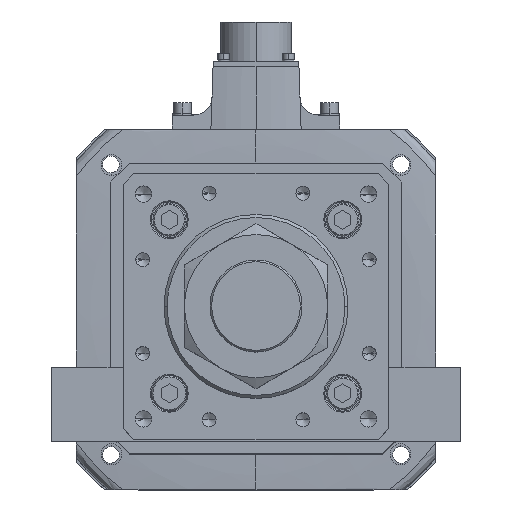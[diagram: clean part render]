
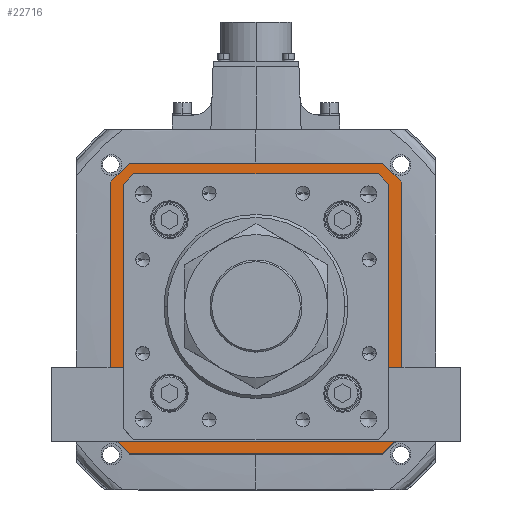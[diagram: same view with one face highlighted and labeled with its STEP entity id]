
A CAD part, top view. The second image highlights one B-rep face of the part: STEP entity #22716.
In plain terms, the highlighted planar face has unit normal (0, 0, 1).
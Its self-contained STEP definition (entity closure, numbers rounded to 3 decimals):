
#202 = ORIENTED_EDGE ( 'NONE', *, *, #43171, .T. ) ;
#1287 = DIRECTION ( 'NONE',  ( 0.707, 0.707, 0. ) ) ;
#1548 = ORIENTED_EDGE ( 'NONE', *, *, #24573, .T. ) ;
#1673 = CARTESIAN_POINT ( 'NONE',  ( -58.793, -63., -142. ) ) ;
#1842 = VECTOR ( 'NONE', #2620, 1000. ) ;
#1913 = EDGE_CURVE ( 'NONE', #6104, #35324, #26500, .T. ) ;
#2513 = CARTESIAN_POINT ( 'NONE',  ( 58.793, -63., -142. ) ) ;
#2620 = DIRECTION ( 'NONE',  ( -0.707, 0.707, 0. ) ) ;
#2770 = ORIENTED_EDGE ( 'NONE', *, *, #30121, .F. ) ;
#2821 = LINE ( 'NONE', #44689, #15617 ) ;
#3034 = LINE ( 'NONE', #45338, #45588 ) ;
#3264 = FACE_BOUND ( 'NONE', #22887, .T. ) ;
#3515 = LINE ( 'NONE', #21176, #36623 ) ;
#3668 = CARTESIAN_POINT ( 'NONE',  ( 0., -63., -142. ) ) ;
#4060 = EDGE_CURVE ( 'NONE', #30266, #53568, #41148, .T. ) ;
#4383 = LINE ( 'NONE', #50966, #20538 ) ;
#4405 = CARTESIAN_POINT ( 'NONE',  ( -58.793, 63., -142. ) ) ;
#4572 = EDGE_CURVE ( 'NONE', #33148, #47173, #3034, .T. ) ;
#4871 = CARTESIAN_POINT ( 'NONE',  ( 71., 62., -142. ) ) ;
#5292 = VERTEX_POINT ( 'NONE', #8486 ) ;
#5397 = CARTESIAN_POINT ( 'NONE',  ( 71., 62., -142. ) ) ;
#6104 = VERTEX_POINT ( 'NONE', #45488 ) ;
#6106 = EDGE_CURVE ( 'NONE', #22545, #49099, #9670, .T. ) ;
#7167 = VECTOR ( 'NONE', #31414, 1000. ) ;
#7328 = ORIENTED_EDGE ( 'NONE', *, *, #4572, .F. ) ;
#7376 = DIRECTION ( 'NONE',  ( 1., 0., 0. ) ) ;
#7693 = CARTESIAN_POINT ( 'NONE',  ( 62., -71., -142. ) ) ;
#7931 = ORIENTED_EDGE ( 'NONE', *, *, #12919, .T. ) ;
#8486 = CARTESIAN_POINT ( 'NONE',  ( 63., 58.793, -142. ) ) ;
#8963 = CARTESIAN_POINT ( 'NONE',  ( 71., 62., -142. ) ) ;
#9179 = EDGE_CURVE ( 'NONE', #35324, #33148, #30275, .T. ) ;
#9670 = LINE ( 'NONE', #37192, #47425 ) ;
#9810 = LINE ( 'NONE', #41874, #54968 ) ;
#9970 = CARTESIAN_POINT ( 'NONE',  ( -62., 71., -142. ) ) ;
#11832 = LINE ( 'NONE', #30900, #43591 ) ;
#11952 = DIRECTION ( 'NONE',  ( -1., 0., 0. ) ) ;
#11995 = DIRECTION ( 'NONE',  ( 1., 0., 0. ) ) ;
#12834 = VERTEX_POINT ( 'NONE', #48550 ) ;
#12919 = EDGE_CURVE ( 'NONE', #46706, #5292, #39150, .T. ) ;
#13585 = VERTEX_POINT ( 'NONE', #14176 ) ;
#14176 = CARTESIAN_POINT ( 'NONE',  ( 63., -58.793, -142. ) ) ;
#15168 = VECTOR ( 'NONE', #7376, 1000. ) ;
#15232 = CARTESIAN_POINT ( 'NONE',  ( -60.896, -60.896, -142. ) ) ;
#15617 = VECTOR ( 'NONE', #45235, 1000. ) ;
#15647 = DIRECTION ( 'NONE',  ( -0.707, 0.707, 0. ) ) ;
#16070 = ORIENTED_EDGE ( 'NONE', *, *, #1913, .F. ) ;
#16150 = PLANE ( 'NONE',  #49194 ) ;
#17379 = ORIENTED_EDGE ( 'NONE', *, *, #9179, .F. ) ;
#17768 = VERTEX_POINT ( 'NONE', #1673 ) ;
#17796 = EDGE_CURVE ( 'NONE', #53973, #46706, #38170, .T. ) ;
#17881 = CARTESIAN_POINT ( 'NONE',  ( 58.793, 63., -142. ) ) ;
#18047 = DIRECTION ( 'NONE',  ( 0.707, -0.707, 0. ) ) ;
#18181 = VECTOR ( 'NONE', #53679, 1000. ) ;
#18554 = LINE ( 'NONE', #35307, #41527 ) ;
#19251 = CARTESIAN_POINT ( 'NONE',  ( 71., -62., -142. ) ) ;
#20512 = DIRECTION ( 'NONE',  ( 1., 0., 0. ) ) ;
#20538 = VECTOR ( 'NONE', #34055, 1000. ) ;
#21176 = CARTESIAN_POINT ( 'NONE',  ( -63., 0., -142. ) ) ;
#22145 = DIRECTION ( 'NONE',  ( 0., -1., 0. ) ) ;
#22453 = DIRECTION ( 'NONE',  ( -0.707, -0.707, 0. ) ) ;
#22545 = VERTEX_POINT ( 'NONE', #40182 ) ;
#22716 = ADVANCED_FACE ( 'NONE', ( #3264, #34322 ), #16150, .T. ) ;
#22887 = EDGE_LOOP ( 'NONE', ( #32468, #43379, #40536, #42191, #1548, #202, #43908, #7931 ) ) ;
#23859 = LINE ( 'NONE', #3668, #40752 ) ;
#23994 = ORIENTED_EDGE ( 'NONE', *, *, #4060, .F. ) ;
#24213 = DIRECTION ( 'NONE',  ( 0.707, -0.707, 0. ) ) ;
#24573 = EDGE_CURVE ( 'NONE', #49674, #12834, #3515, .T. ) ;
#25035 = EDGE_CURVE ( 'NONE', #13585, #54206, #18554, .T. ) ;
#25775 = VECTOR ( 'NONE', #18047, 1000. ) ;
#26500 = LINE ( 'NONE', #5397, #25775 ) ;
#26726 = CARTESIAN_POINT ( 'NONE',  ( -62., 71., -142. ) ) ;
#28535 = ORIENTED_EDGE ( 'NONE', *, *, #6106, .F. ) ;
#29196 = EDGE_CURVE ( 'NONE', #5292, #13585, #54425, .T. ) ;
#30121 = EDGE_CURVE ( 'NONE', #53568, #6104, #9810, .T. ) ;
#30266 = VERTEX_POINT ( 'NONE', #43548 ) ;
#30275 = LINE ( 'NONE', #8963, #36347 ) ;
#30900 = CARTESIAN_POINT ( 'NONE',  ( -60.896, 60.896, -142. ) ) ;
#31414 = DIRECTION ( 'NONE',  ( 0., -1., 0. ) ) ;
#31749 = VECTOR ( 'NONE', #24213, 1000. ) ;
#32468 = ORIENTED_EDGE ( 'NONE', *, *, #29196, .T. ) ;
#32506 = EDGE_CURVE ( 'NONE', #49099, #30266, #2821, .T. ) ;
#32521 = CARTESIAN_POINT ( 'NONE',  ( 60.896, 60.896, -142. ) ) ;
#33148 = VERTEX_POINT ( 'NONE', #19251 ) ;
#34055 = DIRECTION ( 'NONE',  ( -1., 0., 0. ) ) ;
#34322 = FACE_OUTER_BOUND ( 'NONE', #43901, .T. ) ;
#35307 = CARTESIAN_POINT ( 'NONE',  ( 60.896, -60.896, -142. ) ) ;
#35324 = VERTEX_POINT ( 'NONE', #4871 ) ;
#36347 = VECTOR ( 'NONE', #22145, 1000. ) ;
#36623 = VECTOR ( 'NONE', #55688, 1000. ) ;
#37192 = CARTESIAN_POINT ( 'NONE',  ( -62., -71., -142. ) ) ;
#37629 = LINE ( 'NONE', #15232, #1842 ) ;
#38170 = LINE ( 'NONE', #50189, #15168 ) ;
#38731 = EDGE_CURVE ( 'NONE', #54206, #17768, #23859, .T. ) ;
#39150 = LINE ( 'NONE', #32521, #31749 ) ;
#40182 = CARTESIAN_POINT ( 'NONE',  ( -62., -71., -142. ) ) ;
#40536 = ORIENTED_EDGE ( 'NONE', *, *, #38731, .T. ) ;
#40752 = VECTOR ( 'NONE', #11952, 1000. ) ;
#41148 = LINE ( 'NONE', #9970, #18181 ) ;
#41527 = VECTOR ( 'NONE', #22453, 1000. ) ;
#41709 = ORIENTED_EDGE ( 'NONE', *, *, #43427, .F. ) ;
#41874 = CARTESIAN_POINT ( 'NONE',  ( 62., 71., -142. ) ) ;
#42035 = EDGE_CURVE ( 'NONE', #17768, #49674, #37629, .T. ) ;
#42128 = CARTESIAN_POINT ( 'NONE',  ( -63., -58.793, -142. ) ) ;
#42191 = ORIENTED_EDGE ( 'NONE', *, *, #42035, .T. ) ;
#42368 = CARTESIAN_POINT ( 'NONE',  ( -71., -62., -142. ) ) ;
#42392 = DIRECTION ( 'NONE',  ( 0., 0., 1. ) ) ;
#43171 = EDGE_CURVE ( 'NONE', #12834, #53973, #11832, .T. ) ;
#43379 = ORIENTED_EDGE ( 'NONE', *, *, #25035, .T. ) ;
#43427 = EDGE_CURVE ( 'NONE', #47173, #22545, #4383, .T. ) ;
#43548 = CARTESIAN_POINT ( 'NONE',  ( -71., 62., -142. ) ) ;
#43591 = VECTOR ( 'NONE', #1287, 1000. ) ;
#43608 = ORIENTED_EDGE ( 'NONE', *, *, #32506, .F. ) ;
#43901 = EDGE_LOOP ( 'NONE', ( #2770, #23994, #43608, #28535, #41709, #7328, #17379, #16070 ) ) ;
#43908 = ORIENTED_EDGE ( 'NONE', *, *, #17796, .T. ) ;
#44689 = CARTESIAN_POINT ( 'NONE',  ( -71., 62., -142. ) ) ;
#45235 = DIRECTION ( 'NONE',  ( 0., 1., 0. ) ) ;
#45338 = CARTESIAN_POINT ( 'NONE',  ( 71., -62., -142. ) ) ;
#45488 = CARTESIAN_POINT ( 'NONE',  ( 62., 71., -142. ) ) ;
#45588 = VECTOR ( 'NONE', #49081, 1000. ) ;
#46706 = VERTEX_POINT ( 'NONE', #17881 ) ;
#47173 = VERTEX_POINT ( 'NONE', #7693 ) ;
#47425 = VECTOR ( 'NONE', #15647, 1000. ) ;
#48550 = CARTESIAN_POINT ( 'NONE',  ( -63., 58.793, -142. ) ) ;
#49081 = DIRECTION ( 'NONE',  ( -0.707, -0.707, 0. ) ) ;
#49099 = VERTEX_POINT ( 'NONE', #42368 ) ;
#49194 = AXIS2_PLACEMENT_3D ( 'NONE', #54823, #42392, #11995 ) ;
#49674 = VERTEX_POINT ( 'NONE', #42128 ) ;
#50189 = CARTESIAN_POINT ( 'NONE',  ( 0., 63., -142. ) ) ;
#50966 = CARTESIAN_POINT ( 'NONE',  ( 62., -71., -142. ) ) ;
#51721 = CARTESIAN_POINT ( 'NONE',  ( 63., 0., -142. ) ) ;
#53568 = VERTEX_POINT ( 'NONE', #26726 ) ;
#53679 = DIRECTION ( 'NONE',  ( 0.707, 0.707, 0. ) ) ;
#53973 = VERTEX_POINT ( 'NONE', #4405 ) ;
#54206 = VERTEX_POINT ( 'NONE', #2513 ) ;
#54425 = LINE ( 'NONE', #51721, #7167 ) ;
#54823 = CARTESIAN_POINT ( 'NONE',  ( 0., 0., -142. ) ) ;
#54968 = VECTOR ( 'NONE', #20512, 1000. ) ;
#55688 = DIRECTION ( 'NONE',  ( 0., 1., 0. ) ) ;
